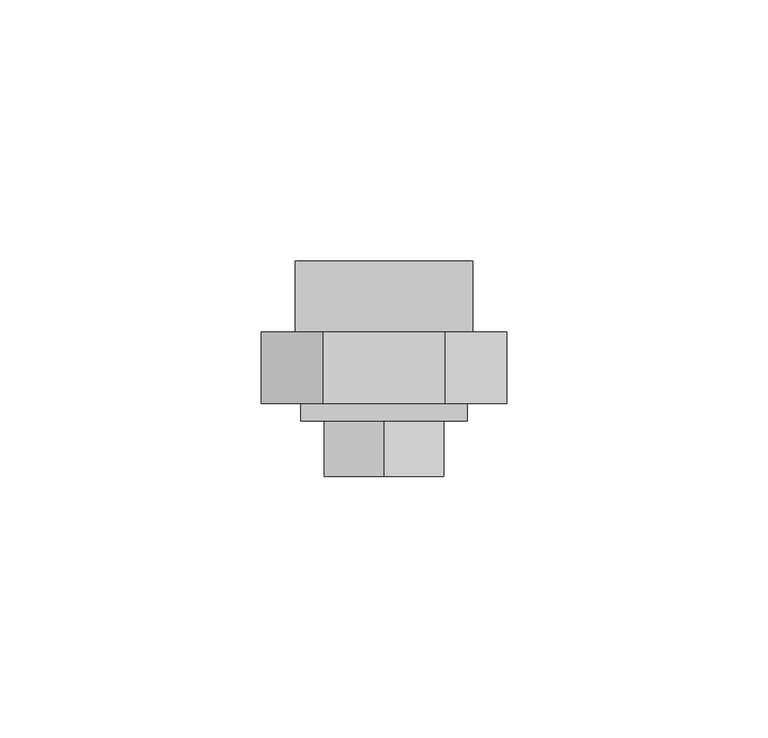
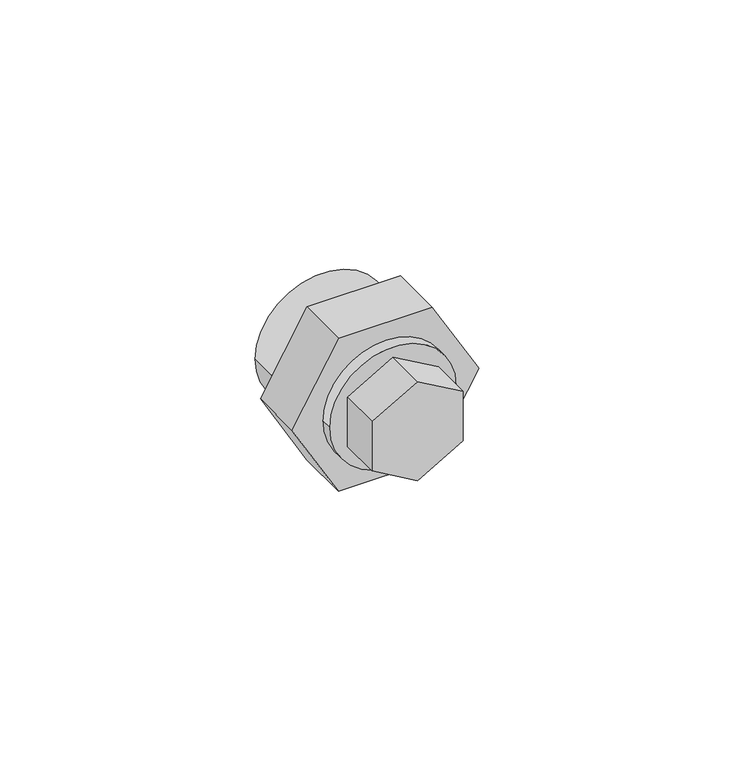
"""IFC4 building model written with IfcOpenShell, lengths in millimetres: pipe fitting geometry, EGB_VASEN_ PPR_Enlace desmontable rosca hembra WXR104 : Enlace desmontable rosca hembra WXR104."""

from ifc_helpers import new_model, si_unit, point, frame, origin, origin_2d, place, context, project, spatial, polyline, circle_curve, trimmed, segment, composite_curve, outline, extrude, source, transform, mapped, element, save


def pipe_fitting_9a6feba1(model_context):
    return source(origin(), model_context, "Body", "SweptSolid", [
        extrude(outline(polyline([(-6.5991136, -11.43), (-13.1982272, 0.0), (-6.5991136, 11.43), (6.5991136, 11.43), (13.1982272, 0.0), (6.5991136, -11.43), (-6.5991136, -11.43)])), frame((0.0, -27.0879167, 0.0), z_axis=(0.0, 1.0, 0.0), x_axis=(0.0, 0.0, 1.0)), (0.0, 0.0, 1.0), 10.6666667),
        extrude(outline(polyline([(0.0, 23.555891), (20.4, 11.7779455), (20.4, -11.7779455), (0.0, -23.555891), (-20.4, -11.7779455), (-20.4, 11.7779455), (0.0, 23.555891)])), frame((0.0, -13.05375, 0.0), z_axis=(0.0, 1.0, 0.0), x_axis=(0.0, 0.0, 1.0)), (0.0, 0.0, 1.0), 13.6666667),
        extrude(outline(composite_curve([segment(trimmed(circle_curve(origin_2d(), 15.915), [point((0.0, -15.915))], [point((0.0, 15.915))], False, "CARTESIAN"), True, "CONTINUOUS"), segment(trimmed(circle_curve(origin_2d(), 15.915), [point((0.0, 15.915))], [point((0.0, -15.915))], False, "CARTESIAN"), True, "CONTINUOUS")], self_intersect=False)), frame((0.0, -16.42125, 0.0), z_axis=(0.0, 1.0, 0.0), x_axis=(0.0, 0.0, 1.0)), (0.0, 0.0, 1.0), 3.3675),
        extrude(outline(composite_curve([segment(trimmed(circle_curve(origin_2d(), 17.0), [point((0.0, -17.0))], [point((0.0, 17.0))], False, "CARTESIAN"), True, "CONTINUOUS"), segment(trimmed(circle_curve(origin_2d(), 17.0), [point((0.0, 17.0))], [point((0.0, -17.0))], False, "CARTESIAN"), True, "CONTINUOUS")], self_intersect=False), holes=[composite_curve([segment(trimmed(circle_curve(origin_2d(), 12.5), [point((0.0, -12.5))], [point((0.0, 12.5))], True, "CARTESIAN"), True, "CONTINUOUS"), segment(trimmed(circle_curve(origin_2d(), 12.5), [point((0.0, 12.5))], [point((0.0, -12.5))], True, "CARTESIAN"), True, "CONTINUOUS")], self_intersect=False)]), frame((0.0, 0.6129167, 0.0), z_axis=(0.0, 1.0, 0.0), x_axis=(0.0, 0.0, 1.0)), (0.0, 0.0, 1.0), 13.6666667),
    ])


if __name__ == "__main__":
    model = new_model("IFC4")
    model_context = context("Model", 3, world=origin())
    ifc_project = project(units=[si_unit("LENGTHUNIT", "METRE", prefix="MILLI")], contexts=[model_context])
    site = spatial("IfcSite", under=ifc_project)
    building = spatial("IfcBuilding", under=site)
    placement = place(None, origin())
    pipe_fitting_shape = pipe_fitting_9a6feba1(model_context)
    element("IfcPipeFitting", 1, ObjectType="EGB_VASEN_ PPR_Enlace desmontable rosca hembra WXR104 : Enlace desmontable rosca hembra WXR104", at=placement, inside=building, context=model_context, shape_type="MappedRepresentation", body=[
        mapped(pipe_fitting_shape, transform((0.0, 0.0, 0.0), x_axis=(1.0, 0.0, 0.0), y_axis=(0.0, 1.0, 0.0), z_axis=(0.0, 0.0, 1.0))),
    ])
    save(model, "model.ifc")
